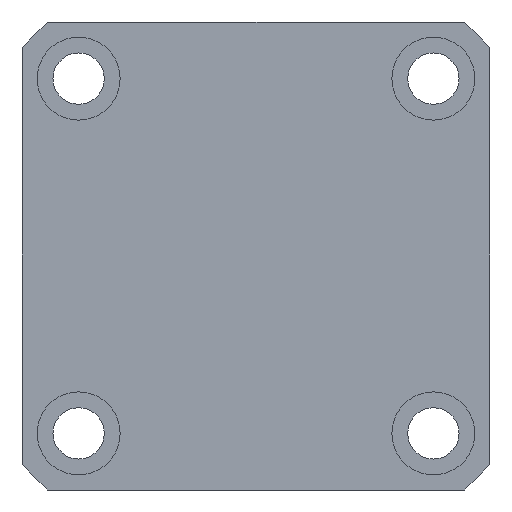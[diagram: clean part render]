
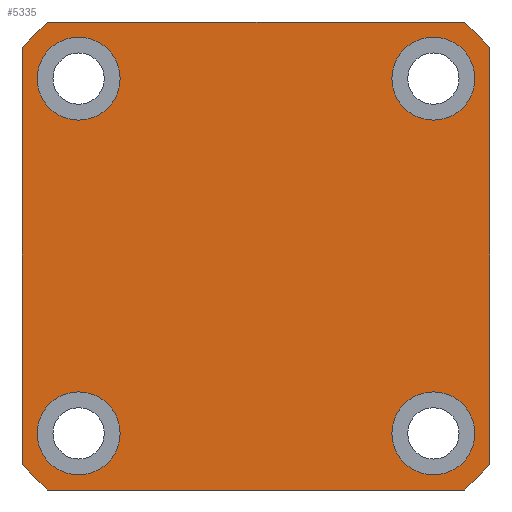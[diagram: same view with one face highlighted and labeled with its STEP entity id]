
A CAD part, left-side view. The second image highlights one B-rep face of the part: STEP entity #5335.
In plain terms, the highlighted planar face has unit normal (-1, 0, 0).
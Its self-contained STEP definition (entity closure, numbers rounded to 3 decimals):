
#2454=LINE('',#16142,#3195);
#2463=LINE('',#17704,#3204);
#2465=LINE('',#17710,#3206);
#2466=LINE('',#17714,#3207);
#3195=VECTOR('',#11812,1.);
#3204=VECTOR('',#11979,1.);
#3206=VECTOR('',#11985,1.);
#3207=VECTOR('',#11988,1.);
#4068=PLANE('',#11411);
#5335=ADVANCED_FACE('',(#5936,#5937,#5938,#5939,#5940),#4068,.F.);
#5786=CIRCLE('',#11328,5.5);
#5788=CIRCLE('',#11331,5.5);
#5790=CIRCLE('',#11334,5.5);
#5792=CIRCLE('',#11337,5.5);
#5833=CIRCLE('',#11407,41.5);
#5834=CIRCLE('',#11408,41.5);
#5835=CIRCLE('',#11409,41.5);
#5836=CIRCLE('',#11410,41.5);
#5936=FACE_BOUND('',#6141,.T.);
#5937=FACE_BOUND('',#6142,.T.);
#5938=FACE_BOUND('',#6143,.T.);
#5939=FACE_BOUND('',#6144,.T.);
#5940=FACE_BOUND('',#6145,.T.);
#6141=EDGE_LOOP('',(#6872,#6873,#6874,#6875,#6876,#6877,#6878,#6879));
#6142=EDGE_LOOP('',(#6880));
#6143=EDGE_LOOP('',(#6881));
#6144=EDGE_LOOP('',(#6882));
#6145=EDGE_LOOP('',(#6883));
#6872=ORIENTED_EDGE('',*,*,#10183,.F.);
#6873=ORIENTED_EDGE('',*,*,#10184,.F.);
#6874=ORIENTED_EDGE('',*,*,#10185,.F.);
#6875=ORIENTED_EDGE('',*,*,#10186,.F.);
#6876=ORIENTED_EDGE('',*,*,#10187,.F.);
#6877=ORIENTED_EDGE('',*,*,#10076,.F.);
#6878=ORIENTED_EDGE('',*,*,#10188,.F.);
#6879=ORIENTED_EDGE('',*,*,#10181,.F.);
#6880=ORIENTED_EDGE('',*,*,#10078,.F.);
#6881=ORIENTED_EDGE('',*,*,#10080,.F.);
#6882=ORIENTED_EDGE('',*,*,#10082,.F.);
#6883=ORIENTED_EDGE('',*,*,#10084,.F.);
#9197=VERTEX_POINT('',#16141);
#9198=VERTEX_POINT('',#16143);
#9199=VERTEX_POINT('',#16147);
#9201=VERTEX_POINT('',#16152);
#9203=VERTEX_POINT('',#16157);
#9205=VERTEX_POINT('',#16162);
#9292=VERTEX_POINT('',#17703);
#9293=VERTEX_POINT('',#17705);
#9294=VERTEX_POINT('',#17709);
#9295=VERTEX_POINT('',#17711);
#9296=VERTEX_POINT('',#17713);
#9297=VERTEX_POINT('',#17715);
#10076=EDGE_CURVE('',#9197,#9198,#2454,.T.);
#10078=EDGE_CURVE('',#9199,#9199,#5786,.T.);
#10080=EDGE_CURVE('',#9201,#9201,#5788,.T.);
#10082=EDGE_CURVE('',#9203,#9203,#5790,.T.);
#10084=EDGE_CURVE('',#9205,#9205,#5792,.T.);
#10181=EDGE_CURVE('',#9292,#9293,#2463,.T.);
#10183=EDGE_CURVE('',#9294,#9292,#5833,.T.);
#10184=EDGE_CURVE('',#9295,#9294,#2465,.T.);
#10185=EDGE_CURVE('',#9296,#9295,#5834,.T.);
#10186=EDGE_CURVE('',#9297,#9296,#2466,.T.);
#10187=EDGE_CURVE('',#9198,#9297,#5835,.T.);
#10188=EDGE_CURVE('',#9293,#9197,#5836,.T.);
#11328=AXIS2_PLACEMENT_3D('',#16146,#11816,#11817);
#11331=AXIS2_PLACEMENT_3D('',#16151,#11822,#11823);
#11334=AXIS2_PLACEMENT_3D('',#16156,#11828,#11829);
#11337=AXIS2_PLACEMENT_3D('',#16161,#11834,#11835);
#11407=AXIS2_PLACEMENT_3D('',#17708,#11983,#11984);
#11408=AXIS2_PLACEMENT_3D('',#17712,#11986,#11987);
#11409=AXIS2_PLACEMENT_3D('',#17716,#11989,#11990);
#11410=AXIS2_PLACEMENT_3D('',#17717,#11991,#11992);
#11411=AXIS2_PLACEMENT_3D('',#17718,#11993,#11994);
#11812=DIRECTION('',(0.,1.,0.));
#11816=DIRECTION('',(-1.,0.,0.));
#11817=DIRECTION('',(0.,0.,1.));
#11822=DIRECTION('',(-1.,0.,0.));
#11823=DIRECTION('',(0.,0.,1.));
#11828=DIRECTION('',(-1.,0.,0.));
#11829=DIRECTION('',(0.,0.,1.));
#11834=DIRECTION('',(-1.,0.,0.));
#11835=DIRECTION('',(0.,0.,1.));
#11979=DIRECTION('',(0.,0.,-1.));
#11983=DIRECTION('',(1.,0.,0.));
#11984=DIRECTION('',(0.,0.,-1.));
#11985=DIRECTION('',(0.,-1.,0.));
#11986=DIRECTION('',(1.,0.,0.));
#11987=DIRECTION('',(0.,0.,-1.));
#11988=DIRECTION('',(0.,0.,1.));
#11989=DIRECTION('',(1.,0.,0.));
#11990=DIRECTION('',(0.,0.,-1.));
#11991=DIRECTION('',(1.,0.,0.));
#11992=DIRECTION('',(0.,0.,-1.));
#11993=DIRECTION('',(1.,0.,0.));
#11994=DIRECTION('',(0.,0.,1.));
#16141=CARTESIAN_POINT('',(0.,3.409,-62.451));
#16142=CARTESIAN_POINT('',(0.,31.,-62.451));
#16143=CARTESIAN_POINT('',(0.,58.591,-62.451));
#16146=CARTESIAN_POINT('',(0.,7.5,-54.951));
#16147=CARTESIAN_POINT('',(0.,7.5,-49.451));
#16151=CARTESIAN_POINT('',(0.,7.5,-7.951));
#16152=CARTESIAN_POINT('',(0.,7.5,-2.451));
#16156=CARTESIAN_POINT('',(0.,54.5,-7.951));
#16157=CARTESIAN_POINT('',(0.,54.5,-2.451));
#16161=CARTESIAN_POINT('',(0.,54.5,-54.951));
#16162=CARTESIAN_POINT('',(0.,54.5,-49.451));
#17703=CARTESIAN_POINT('',(0.,0.,-3.86));
#17704=CARTESIAN_POINT('',(0.,0.,-6.451));
#17705=CARTESIAN_POINT('',(0.,0.,-59.042));
#17708=CARTESIAN_POINT('',(0.,31.,-31.451));
#17709=CARTESIAN_POINT('',(0.,3.409,-0.451));
#17710=CARTESIAN_POINT('',(0.,31.,-0.451));
#17711=CARTESIAN_POINT('',(0.,58.591,-0.451));
#17712=CARTESIAN_POINT('',(0.,31.,-31.451));
#17713=CARTESIAN_POINT('',(0.,62.,-3.86));
#17714=CARTESIAN_POINT('',(0.,62.,-31.451));
#17715=CARTESIAN_POINT('',(0.,62.,-59.042));
#17716=CARTESIAN_POINT('',(0.,31.,-31.451));
#17717=CARTESIAN_POINT('',(0.,31.,-31.451));
#17718=CARTESIAN_POINT('',(0.,31.,-31.451));
